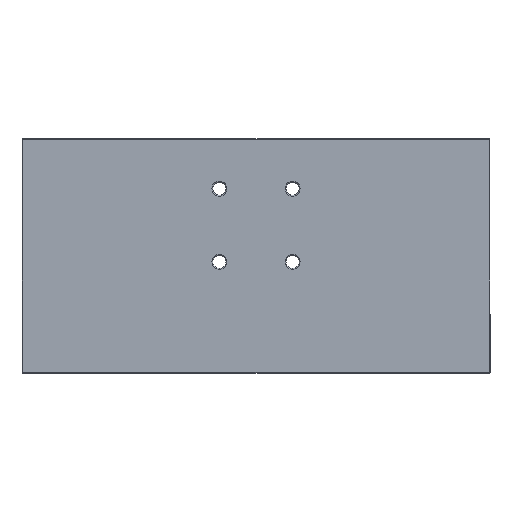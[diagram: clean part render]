
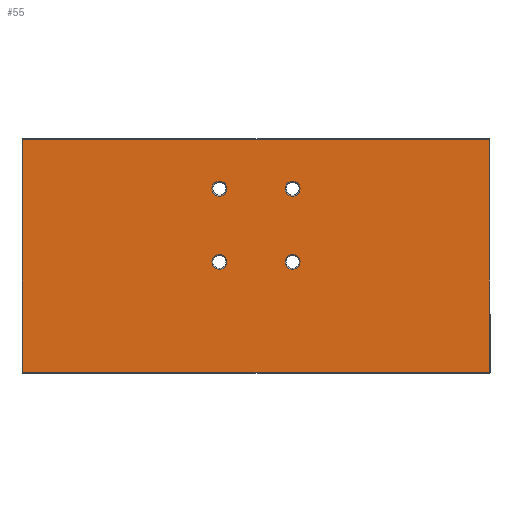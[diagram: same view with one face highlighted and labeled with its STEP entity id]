
A CAD part, top view. The second image highlights one B-rep face of the part: STEP entity #55.
In plain terms, the highlighted planar face has unit normal (0, 0, 1).
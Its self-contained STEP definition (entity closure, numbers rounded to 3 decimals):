
#43 = DIRECTION ( 'NONE',  ( 0., 0., -1. ) ) ;
#55 = ADVANCED_FACE ( 'NONE', ( #1213, #99, #357, #1591, #846 ), #236, .T. ) ;
#60 = ORIENTED_EDGE ( 'NONE', *, *, #656, .T. ) ;
#82 = ORIENTED_EDGE ( 'NONE', *, *, #1259, .T. ) ;
#94 = EDGE_CURVE ( 'NONE', #578, #1243, #1366, .T. ) ;
#99 = FACE_BOUND ( 'NONE', #957, .T. ) ;
#113 = EDGE_LOOP ( 'NONE', ( #1467, #60 ) ) ;
#114 = VERTEX_POINT ( 'NONE', #386 ) ;
#119 = DIRECTION ( 'NONE',  ( 0., 1., 0. ) ) ;
#137 = DIRECTION ( 'NONE',  ( 1., 0., 0. ) ) ;
#140 = CARTESIAN_POINT ( 'NONE',  ( 12.5, -2., 10. ) ) ;
#236 = PLANE ( 'NONE',  #1468 ) ;
#272 = CARTESIAN_POINT ( 'NONE',  ( -12.5, 23., 10. ) ) ;
#274 = ORIENTED_EDGE ( 'NONE', *, *, #94, .T. ) ;
#313 = DIRECTION ( 'NONE',  ( 0., 0., -1. ) ) ;
#321 = VECTOR ( 'NONE', #1212, 1000. ) ;
#346 = VECTOR ( 'NONE', #119, 1000. ) ;
#350 = CARTESIAN_POINT ( 'NONE',  ( -79.7, -39.7, 10. ) ) ;
#357 = FACE_BOUND ( 'NONE', #503, .T. ) ;
#364 = VECTOR ( 'NONE', #384, 1000. ) ;
#367 = AXIS2_PLACEMENT_3D ( 'NONE', #921, #313, #799 ) ;
#373 = DIRECTION ( 'NONE',  ( 0., 0., -1. ) ) ;
#384 = DIRECTION ( 'NONE',  ( 0., -1., 0. ) ) ;
#386 = CARTESIAN_POINT ( 'NONE',  ( 79.7, -39.7, 10. ) ) ;
#409 = EDGE_CURVE ( 'NONE', #1358, #1312, #415, .T. ) ;
#415 = CIRCLE ( 'NONE', #569, 2.55 ) ;
#418 = CIRCLE ( 'NONE', #468, 2.55 ) ;
#421 = AXIS2_PLACEMENT_3D ( 'NONE', #1199, #1073, #591 ) ;
#432 = DIRECTION ( 'NONE',  ( 1., 0., 0. ) ) ;
#449 = CARTESIAN_POINT ( 'NONE',  ( -12.5, 23., 10. ) ) ;
#468 = AXIS2_PLACEMENT_3D ( 'NONE', #449, #43, #432 ) ;
#471 = CIRCLE ( 'NONE', #421, 2.55 ) ;
#474 = DIRECTION ( 'NONE',  ( 0., 0., -1. ) ) ;
#477 = LINE ( 'NONE', #1346, #825 ) ;
#479 = CARTESIAN_POINT ( 'NONE',  ( 0., 0., 10. ) ) ;
#485 = CARTESIAN_POINT ( 'NONE',  ( -12.5, -2., 10. ) ) ;
#490 = DIRECTION ( 'NONE',  ( 1., 0., 0. ) ) ;
#493 = AXIS2_PLACEMENT_3D ( 'NONE', #140, #373, #917 ) ;
#497 = CARTESIAN_POINT ( 'NONE',  ( -79.7, 39.7, 10. ) ) ;
#503 = EDGE_LOOP ( 'NONE', ( #940, #751 ) ) ;
#505 = EDGE_CURVE ( 'NONE', #1412, #622, #477, .T. ) ;
#518 = ORIENTED_EDGE ( 'NONE', *, *, #1581, .T. ) ;
#526 = CARTESIAN_POINT ( 'NONE',  ( -15.05, 23., 10. ) ) ;
#528 = CARTESIAN_POINT ( 'NONE',  ( 12.5, 23., 10. ) ) ;
#540 = EDGE_CURVE ( 'NONE', #622, #1506, #1014, .T. ) ;
#566 = CARTESIAN_POINT ( 'NONE',  ( -15.05, -2., 10. ) ) ;
#569 = AXIS2_PLACEMENT_3D ( 'NONE', #485, #474, #1079 ) ;
#578 = VERTEX_POINT ( 'NONE', #1372 ) ;
#591 = DIRECTION ( 'NONE',  ( 1., 0., 0. ) ) ;
#605 = LINE ( 'NONE', #1448, #321 ) ;
#622 = VERTEX_POINT ( 'NONE', #497 ) ;
#634 = DIRECTION ( 'NONE',  ( 1., 0., 0. ) ) ;
#635 = LINE ( 'NONE', #1129, #346 ) ;
#656 = EDGE_CURVE ( 'NONE', #1436, #793, #1083, .T. ) ;
#695 = ORIENTED_EDGE ( 'NONE', *, *, #1420, .T. ) ;
#724 = CIRCLE ( 'NONE', #1370, 2.55 ) ;
#751 = ORIENTED_EDGE ( 'NONE', *, *, #409, .T. ) ;
#787 = CARTESIAN_POINT ( 'NONE',  ( 9.95, -2., 10. ) ) ;
#793 = VERTEX_POINT ( 'NONE', #969 ) ;
#799 = DIRECTION ( 'NONE',  ( 1., 0., 0. ) ) ;
#806 = ORIENTED_EDGE ( 'NONE', *, *, #1478, .T. ) ;
#820 = ORIENTED_EDGE ( 'NONE', *, *, #540, .T. ) ;
#825 = VECTOR ( 'NONE', #1456, 1000. ) ;
#834 = CARTESIAN_POINT ( 'NONE',  ( 9.95, 23., 10. ) ) ;
#846 = FACE_BOUND ( 'NONE', #113, .T. ) ;
#862 = EDGE_LOOP ( 'NONE', ( #820, #695, #518, #1109 ) ) ;
#865 = CARTESIAN_POINT ( 'NONE',  ( -79.7, -40., 10. ) ) ;
#870 = EDGE_CURVE ( 'NONE', #793, #1436, #724, .T. ) ;
#914 = CARTESIAN_POINT ( 'NONE',  ( -9.95, -2., 10. ) ) ;
#917 = DIRECTION ( 'NONE',  ( 1., 0., 0. ) ) ;
#921 = CARTESIAN_POINT ( 'NONE',  ( -12.5, -2., 10. ) ) ;
#940 = ORIENTED_EDGE ( 'NONE', *, *, #1302, .T. ) ;
#952 = CARTESIAN_POINT ( 'NONE',  ( 79.7, 39.7, 10. ) ) ;
#957 = EDGE_LOOP ( 'NONE', ( #994, #806 ) ) ;
#969 = CARTESIAN_POINT ( 'NONE',  ( 15.05, 23., 10. ) ) ;
#973 = DIRECTION ( 'NONE',  ( 0., 0., 1. ) ) ;
#975 = AXIS2_PLACEMENT_3D ( 'NONE', #272, #1484, #1262 ) ;
#994 = ORIENTED_EDGE ( 'NONE', *, *, #1564, .T. ) ;
#1012 = DIRECTION ( 'NONE',  ( 0., 0., -1. ) ) ;
#1014 = LINE ( 'NONE', #865, #364 ) ;
#1057 = VERTEX_POINT ( 'NONE', #787 ) ;
#1073 = DIRECTION ( 'NONE',  ( 0., 0., -1. ) ) ;
#1079 = DIRECTION ( 'NONE',  ( 1., 0., 0. ) ) ;
#1083 = CIRCLE ( 'NONE', #1138, 2.55 ) ;
#1109 = ORIENTED_EDGE ( 'NONE', *, *, #505, .T. ) ;
#1129 = CARTESIAN_POINT ( 'NONE',  ( 79.7, 40., 10. ) ) ;
#1136 = DIRECTION ( 'NONE',  ( 0., 0., -1. ) ) ;
#1138 = AXIS2_PLACEMENT_3D ( 'NONE', #1252, #1136, #634 ) ;
#1196 = CIRCLE ( 'NONE', #493, 2.55 ) ;
#1199 = CARTESIAN_POINT ( 'NONE',  ( 12.5, -2., 10. ) ) ;
#1212 = DIRECTION ( 'NONE',  ( 1., 0., 0. ) ) ;
#1213 = FACE_OUTER_BOUND ( 'NONE', #862, .T. ) ;
#1243 = VERTEX_POINT ( 'NONE', #526 ) ;
#1252 = CARTESIAN_POINT ( 'NONE',  ( 12.5, 23., 10. ) ) ;
#1259 = EDGE_CURVE ( 'NONE', #1243, #578, #418, .T. ) ;
#1262 = DIRECTION ( 'NONE',  ( 1., 0., 0. ) ) ;
#1280 = CARTESIAN_POINT ( 'NONE',  ( 15.05, -2., 10. ) ) ;
#1302 = EDGE_CURVE ( 'NONE', #1312, #1358, #1599, .T. ) ;
#1312 = VERTEX_POINT ( 'NONE', #914 ) ;
#1346 = CARTESIAN_POINT ( 'NONE',  ( -80., 39.7, 10. ) ) ;
#1358 = VERTEX_POINT ( 'NONE', #566 ) ;
#1366 = CIRCLE ( 'NONE', #975, 2.55 ) ;
#1370 = AXIS2_PLACEMENT_3D ( 'NONE', #528, #1012, #137 ) ;
#1372 = CARTESIAN_POINT ( 'NONE',  ( -9.95, 23., 10. ) ) ;
#1377 = VERTEX_POINT ( 'NONE', #1280 ) ;
#1394 = EDGE_LOOP ( 'NONE', ( #274, #82 ) ) ;
#1412 = VERTEX_POINT ( 'NONE', #952 ) ;
#1420 = EDGE_CURVE ( 'NONE', #1506, #114, #605, .T. ) ;
#1436 = VERTEX_POINT ( 'NONE', #834 ) ;
#1448 = CARTESIAN_POINT ( 'NONE',  ( 80., -39.7, 10. ) ) ;
#1456 = DIRECTION ( 'NONE',  ( -1., 0., 0. ) ) ;
#1467 = ORIENTED_EDGE ( 'NONE', *, *, #870, .T. ) ;
#1468 = AXIS2_PLACEMENT_3D ( 'NONE', #479, #973, #490 ) ;
#1478 = EDGE_CURVE ( 'NONE', #1057, #1377, #471, .T. ) ;
#1484 = DIRECTION ( 'NONE',  ( 0., 0., -1. ) ) ;
#1506 = VERTEX_POINT ( 'NONE', #350 ) ;
#1564 = EDGE_CURVE ( 'NONE', #1377, #1057, #1196, .T. ) ;
#1581 = EDGE_CURVE ( 'NONE', #114, #1412, #635, .T. ) ;
#1591 = FACE_BOUND ( 'NONE', #1394, .T. ) ;
#1599 = CIRCLE ( 'NONE', #367, 2.55 ) ;
